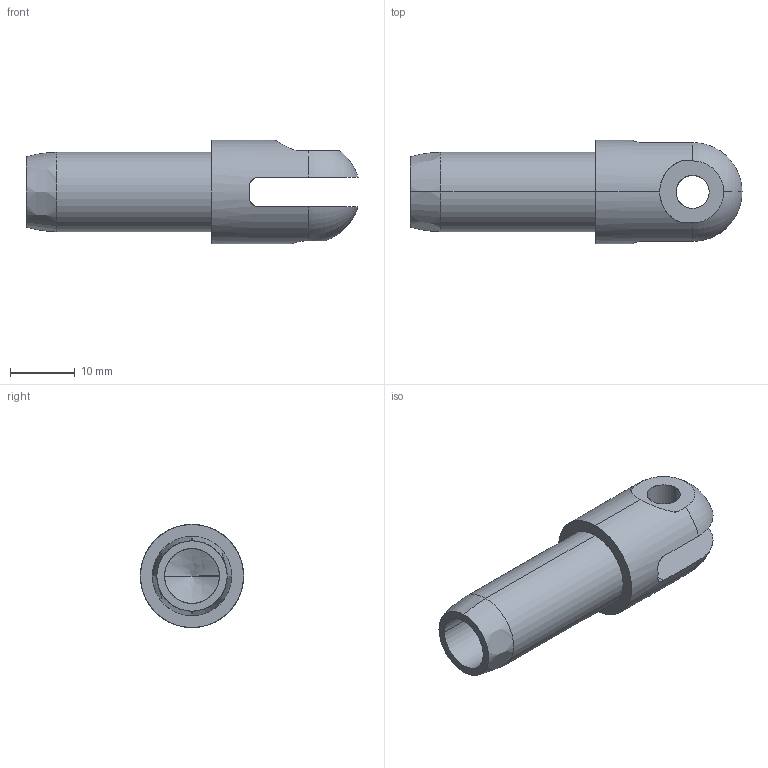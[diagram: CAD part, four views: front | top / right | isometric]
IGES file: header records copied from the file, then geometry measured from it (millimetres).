
Start section: SolidWorks IGES file using analytic representation for surfaces
Global section: file name: \\SERVER3\Design\_New Design Drive Folder List\_Design Vault\AAI\Modular Round Tube Connectors\Solidworks Models\Modular Connectors\0.500 In. Modular Connectors\Basic Models\0.500 In. Female Clevis Connector.IGS; native system: SolidWorks 2013; preprocessor: SolidWorks 2013; author: tbraun; date: 140807.144842; units: inch
Bounding box: 51.1 x 15.88 x 15.88 mm (x, y, z)
Surface area: 3580.1 mm2 (no closed solid volume)
Topology: 0 solids, 0 shells, 28 faces, 580 edges, 578 vertices
Faces by surface type: revolution 20, bspline 8
